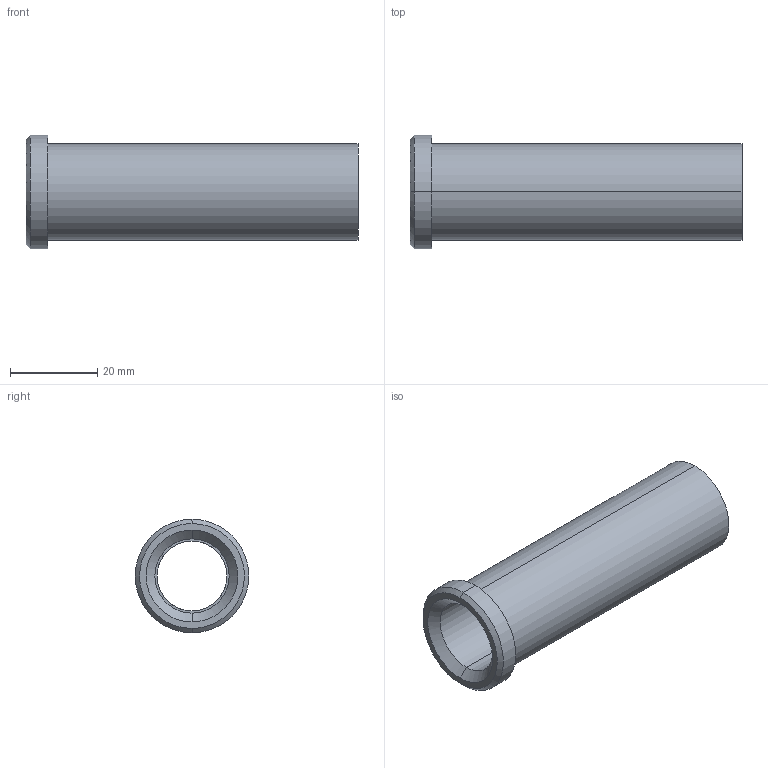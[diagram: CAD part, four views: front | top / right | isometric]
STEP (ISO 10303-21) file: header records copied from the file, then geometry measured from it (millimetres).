
FILE_DESCRIPTION(('CATIA V5 STEP Exchange'),'2;1');
FILE_NAME('C:\Users\Utente\Desktop\IO LAVORO\3D X SITO CF\X SITO\PLASTICA\353\353-16X76.stp','2021-05-04T18:15:30+00:00',('none'),('none'),'CATIA Version 5 Release 20 GA (IN-10)','CATIA V5 STEP AP203','none');
FILE_SCHEMA(('CONFIG_CONTROL_DESIGN'));
Length unit declared in the file: millimetre
Products named in the file (1): 353-16X76
Bounding box: 76 x 26 x 26 mm (x, y, z)
Volume: 13056.9 mm3; surface area: 9806.1 mm2
Topology: 1 solids, 1 shells, 18 faces, 58 edges, 44 vertices
Faces by surface type: cylinder 8, plane 4, cone 4, torus 2
Entity records: 840 total; most frequent: CARTESIAN_POINT 289, ORIENTED_EDGE 116, DIRECTION 82, EDGE_CURVE 58, AXIS2_PLACEMENT_3D 53, VERTEX_POINT 44, CIRCLE 34, EDGE_LOOP 22
